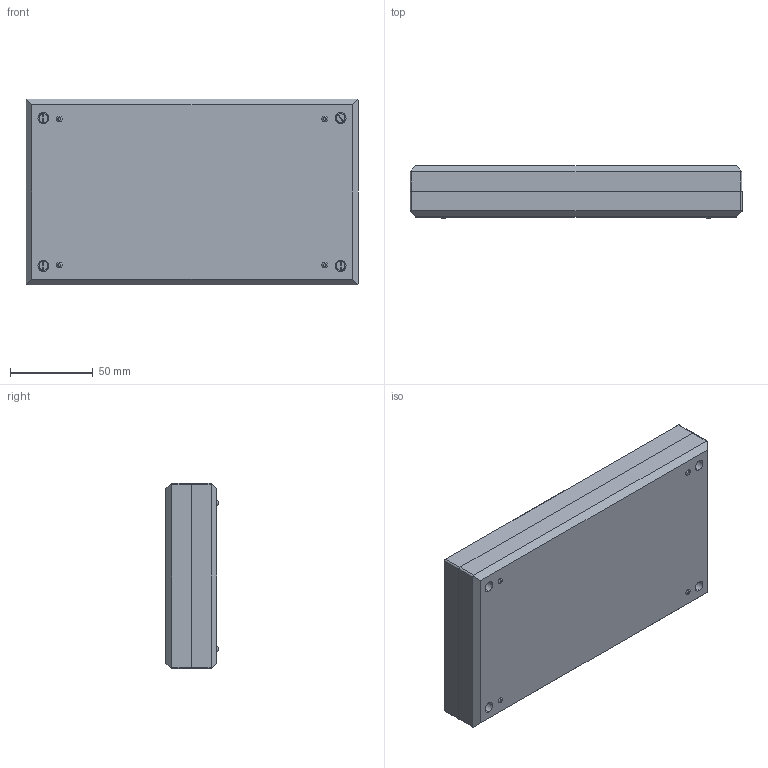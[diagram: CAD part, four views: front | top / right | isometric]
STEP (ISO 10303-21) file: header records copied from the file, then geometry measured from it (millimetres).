
FILE_DESCRIPTION (( 'STEP AP214' ), '1' );
FILE_NAME ('Conjunt PP37.STEP', '2016-10-09T09:41:52', ( 'aaa' ), ( '' ), 'SwSTEP 2.0', 'SolidWorks 2013', '' );
FILE_SCHEMA (( 'AUTOMOTIVE_DESIGN' ));
Length unit declared in the file: millimetre
Products named in the file (6): Fijacion tornillo PP37; Cargol 2,1x6,5 PP37; Cargol M 3x8 PP37; Tapa PP37; Cuerpo PP37; Conjunt PP37
Assembly tree (14 placements, depth 2):
  Conjunt PP37
    Cuerpo PP37
    Tapa PP37
    Cargol M 3x8 PP37  x4
    Cargol 2,1x6,5 PP37  x4
    Fijacion tornillo PP37  x4
Bounding box: 200 x 31.45 x 112 mm (x, y, z)
Volume: 187281.2 mm3; surface area: 131904 mm2
Topology: 14 solids, 14 shells, 797 faces, 1720 edges, 1004 vertices
Faces by surface type: cone 400, plane 229, cylinder 152, torus 16
Entity records: 10578 total; most frequent: DIRECTION 1926, CARTESIAN_POINT 1820, ORIENTED_EDGE 1636, EDGE_CURVE 818, AXIS2_PLACEMENT_3D 751, VERTEX_POINT 509, EDGE_LOOP 439, LINE 424
